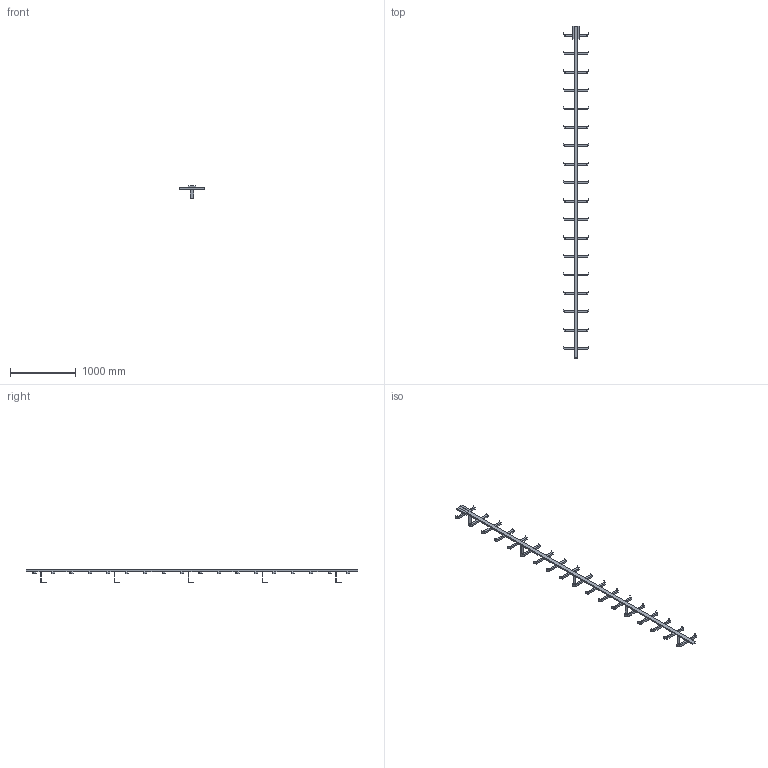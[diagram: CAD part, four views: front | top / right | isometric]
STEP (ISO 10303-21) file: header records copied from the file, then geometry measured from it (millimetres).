
FILE_DESCRIPTION((''),'2;1');
FILE_NAME('017_000114','2017-08-01T',('set'),('HUBER SE'),'PRO/ENGINEER BY PARAMETRIC TECHNOLOGY CORPORATION, 2015280','PRO/ENGINEER BY PARAMETRIC TECHNOLOGY CORPORATION, 2015280','');
FILE_SCHEMA(('CONFIG_CONTROL_DESIGN'));
Length unit declared in the file: millimetre
Products named in the file (1): 017_000114
Bounding box: 394 x 5040 x 195 mm (x, y, z)
Volume: 13431607.2 mm3; surface area: 1831191 mm2
Topology: 1 solids, 1 shells, 491 faces, 1479 edges, 995 vertices
Faces by surface type: plane 491
Entity records: 16042 total; most frequent: CARTESIAN_POINT 3006, ORIENTED_EDGE 2756, DIRECTION 2416, VECTOR 1432, LINE 1432, EDGE_CURVE 1378, VERTEX_POINT 894, EDGE_LOOP 496
